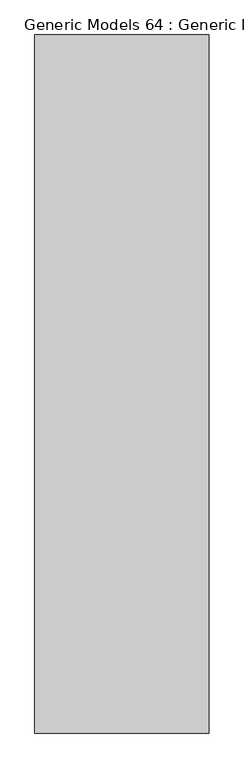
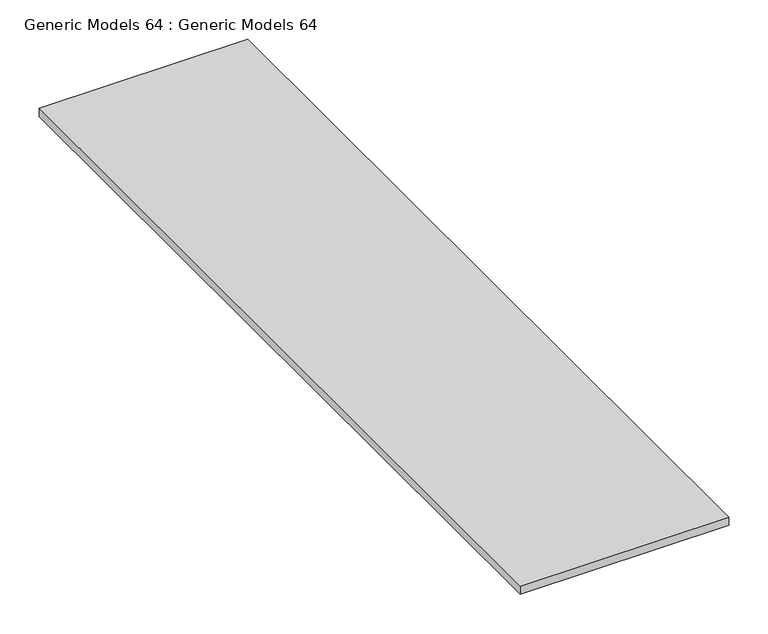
"""IFC4 building model written with IfcOpenShell, lengths in millimetres: proxy geometry, Generic Models 64 : Generic Models 64."""

from ifc_helpers import new_model, si_unit, frame, origin, place, context, project, spatial, polyline, outline, extrude, source, transform, mapped, element, save


def generic_models_64_generic_models_64_f3553388(model_context):
    return source(origin(), model_context, "Body", "SweptSolid", [
        extrude(outline(polyline([(5083.0421751, 13727.8027641), (5083.0421751, 12508.6027641), (4778.2421751, 12508.6027641), (4778.2421751, 13727.8027641), (5083.0421751, 13727.8027641)])), frame((0.0, 0.0, 6591.3), z_axis=(0.0, 0.0, 1.0), x_axis=(1.0, 0.0, 0.0)), (0.0, 0.0, 1.0), 12.7),
    ])


if __name__ == "__main__":
    model = new_model("IFC4")
    model_context = context("Model", 3, world=origin())
    ifc_project = project(units=[si_unit("LENGTHUNIT", "METRE", prefix="MILLI")], contexts=[model_context])
    site = spatial("IfcSite", under=ifc_project)
    building = spatial("IfcBuilding", under=site)
    placement = place(None, origin())
    generic_models_64_generic_models_64_shape = generic_models_64_generic_models_64_f3553388(model_context)
    element("IfcBuildingElementProxy", 1, Name="Generic Models 64 : Generic Models 64", ObjectType="Generic Models 64 : Generic Models 64", at=placement, inside=building, context=model_context, shape_type="MappedRepresentation", body=[
        mapped(generic_models_64_generic_models_64_shape, transform((0.0, 0.0, 0.0), x_axis=(1.0, 0.0, 0.0), y_axis=(0.0, 1.0, 0.0), z_axis=(0.0, 0.0, 1.0))),
    ])
    save(model, "model.ifc")
